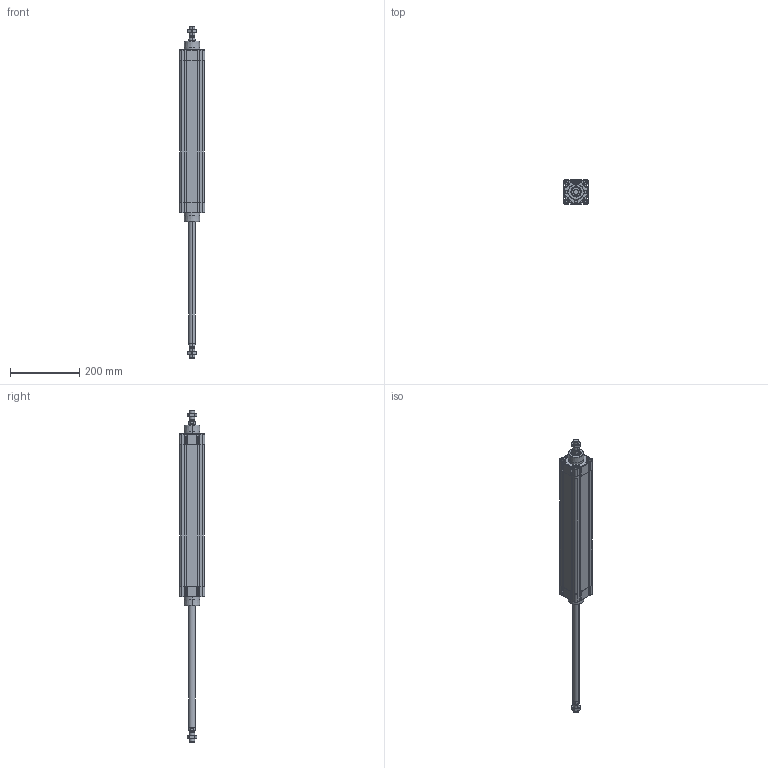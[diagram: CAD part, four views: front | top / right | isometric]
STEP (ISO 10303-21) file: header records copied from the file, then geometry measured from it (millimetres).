
FILE_DESCRIPTION (( 'STEP AP214' ), '1' );
FILE_NAME ('N11M40630320.STEP', '2021-09-28T10:05:37', ( '' ), ( '' ), 'SwSTEP 2.0', 'SolidWorks 2016', '' );
FILE_SCHEMA (( 'AUTOMOTIVE_DESIGN' ));
Length unit declared in the file: millimetre
Products named in the file (7): TA Ø63 ISO 15552 WEB; 21.752.0; 21.D01.0000_21.D01.0350; Pistone Ø63 ISO 15552; 000.513.7_000.513.0350; N11M40630320; 21.D03.0000_21.D03.0350
Assembly tree (8 placements, depth 2):
  N11M40630320
    TA Ø63 ISO 15552 WEB  x2
    21.D01.0000_21.D01.0350
    21.D03.0000_21.D03.0350
    Pistone Ø63 ISO 15552
    21.752.0  x2
    000.513.7_000.513.0350
Bounding box: 73.97 x 73.98 x 959 mm (x, y, z)
Volume: 1278803.9 mm3; surface area: 474762.4 mm2
Topology: 20 solids, 20 shells, 2132 faces, 5374 edges, 3281 vertices
Faces by surface type: plane 720, cylinder 712, bspline 252, cone 248, torus 162, sphere 38
Entity records: 48770 total; most frequent: CARTESIAN_POINT 10729, ORIENTED_EDGE 5928, DIRECTION 5714, EDGE_CURVE 2964, AXIS2_PLACEMENT_3D 2140, VERTEX_POINT 1841, VECTOR 1434, LINE 1434
